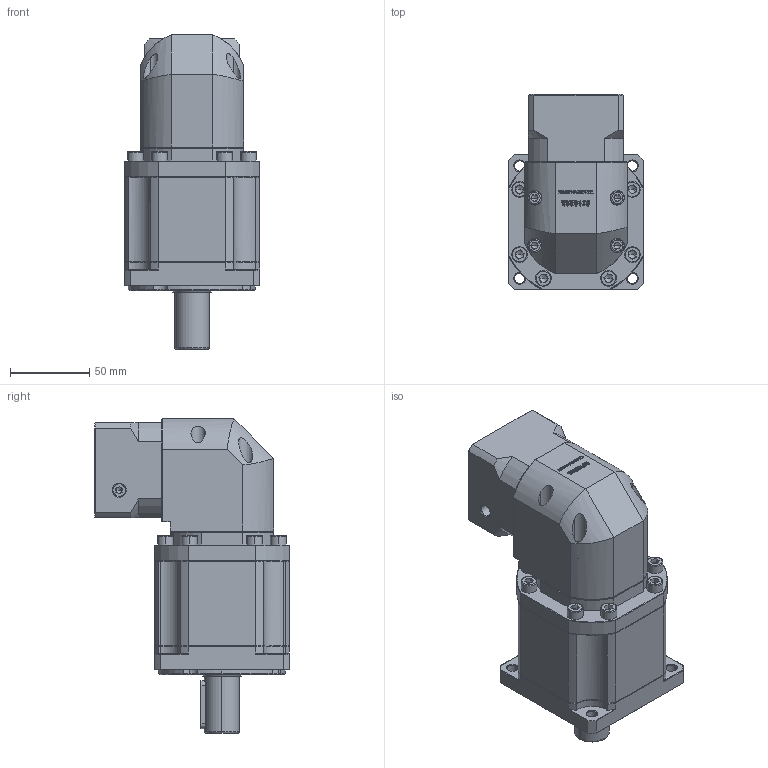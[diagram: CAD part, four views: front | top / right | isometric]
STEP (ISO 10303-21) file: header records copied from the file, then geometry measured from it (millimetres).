
FILE_DESCRIPTION (( 'STEP AP214' ), '1' );
FILE_NAME ('ZBR90-D22-L3-6.35-38.1-47.14x47.14-M4.step', '2022-05-07T15:22:45', ( '' ), ( 'Microsoft' ), 'SwSTEP 2.0', 'SolidWorks 2016', '' );
FILE_SCHEMA (( 'AUTOMOTIVE_DESIGN' ));
Length unit declared in the file: millimetre
Products named in the file (1): ZBR90-D22-L3-6.35-38.1-47.14x47.14-M4
Bounding box: 85 x 122.7 x 198 mm (x, y, z)
Volume: 928629.7 mm3; surface area: 106859.3 mm2
Topology: 5 solids, 5 shells, 3035 faces, 8119 edges, 5229 vertices
Faces by surface type: plane 1599, bspline 620, cylinder 439, cone 369, torus 8
Entity records: 161420 total; most frequent: CARTESIAN_POINT 56935, ORIENTED_EDGE 16146, DIRECTION 12410, EDGE_CURVE 8073, VECTOR 5332, LINE 5332, VERTEX_POINT 5229, AXIS2_PLACEMENT_3D 3539
